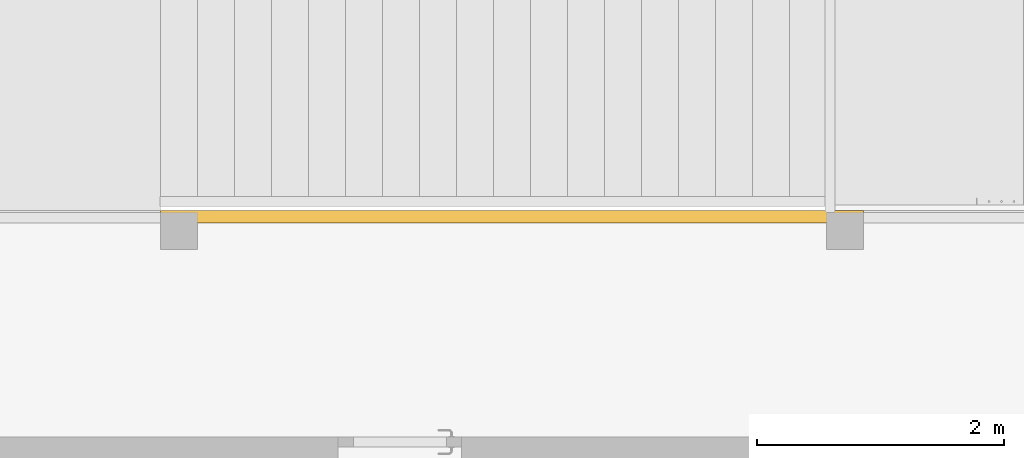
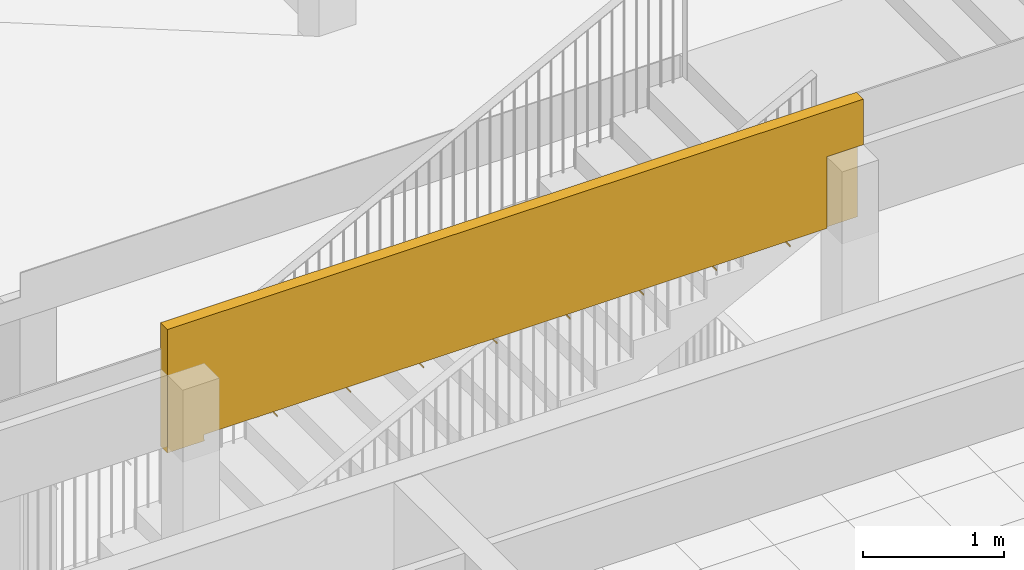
# One storey, part 57 of 79: 1 covering.
"""IFC2X3 building model written with IfcOpenShell, lengths in millimetres."""

import ifcopenshell
import ifcopenshell.guid

model = None  # the IFC model being written
_history = None  # IfcOwnerHistory: only IFC2X3 demands one
_inside = {}  # id of a spatial element -> (the spatial element, [elements in it])
_under = {}  # id of a project, library or spatial element -> (it, [spatial elements below it])
_declared = {}  # id of a project -> (the project, [libraries it declares])
_typed = {}  # id of a type object -> (the type object, [elements of that type])
_made_of = {}  # id of a material, layer set ... -> (it, [elements and type objects made of it])


def new_model(schema):
    """Start an empty IFC model of exactly this schema.

    Asked for "IFC4X3", IfcOpenShell would pick the latest addendum, in which some entities
    have other attributes; the version numbers below select the first issue.
    IFC2X3 requires an IfcOwnerHistory on every rooted entity: one is made here for all.
    """
    global model, _history
    if schema == "IFC4X3":
        model = ifcopenshell.file(schema_version=(4, 3, 0, 0))
    else:
        model = ifcopenshell.file(schema=schema)
    _inside.clear()
    _under.clear()
    _declared.clear()
    _typed.clear()
    _made_of.clear()
    _history = None
    if model.schema == "IFC2X3":
        org = make("IfcOrganization", Name="unknown")
        user = make(
            "IfcPersonAndOrganization",
            ThePerson=make("IfcPerson", FamilyName="unknown"),
            TheOrganization=org,
        )
        app = make(
            "IfcApplication",
            ApplicationDeveloper=org,
            Version="unknown",
            ApplicationFullName="unknown",
            ApplicationIdentifier="unknown",
        )
        _history = make(
            "IfcOwnerHistory",
            OwningUser=user,
            OwningApplication=app,
            ChangeAction="ADDED",
            CreationDate=0,
        )
    return model


def make(cls, **values):
    """One entity of the class cls with the attributes given. An attribute that is None is left unset."""
    return model.create_entity(
        cls, **{name: value for name, value in values.items() if value is not None}
    )


def entity(cls, *values):
    """Any entity or typed value of the class cls, its attributes in the order of the schema. None: left unset."""
    e = model.create_entity(cls)
    for i, value in enumerate(values):
        if value is not None:
            e[i] = value
    return e


def rooted(cls, **values):
    """An entity with a GlobalId (a new one), such as an element, a storey or a relation."""
    return make(cls, GlobalId=ifcopenshell.guid.new(), OwnerHistory=_history, **values)


def si_unit(unit_type, name, prefix=None):
    """IfcSIUnit, for example si_unit("LENGTHUNIT", "METRE", prefix="MILLI")."""
    return make("IfcSIUnit", UnitType=unit_type, Prefix=prefix, Name=name)


def converted_unit(unit_type, name, factor, base, dimensions=None, offset=None):
    """IfcConversionBasedUnit, such as the inch: factor (a typed value) times the base unit."""
    return make(
        "IfcConversionBasedUnit"
        if offset is None
        else "IfcConversionBasedUnitWithOffset",
        ConversionOffset=offset,
        Dimensions=None
        if dimensions is None
        else entity("IfcDimensionalExponents", *dimensions),
        UnitType=unit_type,
        Name=name,
        ConversionFactor=make(
            "IfcMeasureWithUnit", ValueComponent=factor, UnitComponent=base
        ),
    )


def derived_unit(unit_type, elements):
    """IfcDerivedUnit: a product of units, each with its exponent."""
    return make(
        "IfcDerivedUnit",
        Elements=[
            make("IfcDerivedUnitElement", Unit=unit, Exponent=power)
            for unit, power in elements
        ],
        UnitType=unit_type,
    )


def money_unit(currency):
    """IfcMonetaryUnit."""
    return make("IfcMonetaryUnit", Currency=currency)


def assignment(units):
    """IfcUnitAssignment: the units of a project."""
    return None if units is None else make("IfcUnitAssignment", Units=units)


def point(xyz):
    """IfcCartesianPoint."""
    return None if xyz is None else make("IfcCartesianPoint", Coordinates=xyz)


def direction(xyz):
    """IfcDirection."""
    return None if xyz is None else make("IfcDirection", DirectionRatios=xyz)


def frame(location, z_axis=None, x_axis=None):
    """IfcAxis2Placement3D, a coordinate frame: its origin and axes. An axis left out is left unset."""
    return make(
        "IfcAxis2Placement3D",
        Location=point(location),
        Axis=direction(z_axis),
        RefDirection=direction(x_axis),
    )


def origin_with_axes():
    """The frame at (0, 0, 0) with the z axis (0, 0, 1) and the x axis (1, 0, 0) written out."""
    return frame((0.0, 0.0, 0.0), z_axis=(0.0, 0.0, 1.0), x_axis=(1.0, 0.0, 0.0))


def place(relative_to, where):
    """IfcLocalPlacement: puts the frame where relative to a parent placement (None: the world)."""
    return make(
        "IfcLocalPlacement", PlacementRelTo=relative_to, RelativePlacement=where
    )


def context(
    kind, dimensions, precision=None, world=None, true_north=None, identifier=None
):
    """IfcGeometricRepresentationContext, for example the 3D "Model" context."""
    return make(
        "IfcGeometricRepresentationContext",
        ContextIdentifier=identifier,
        ContextType=kind,
        CoordinateSpaceDimension=dimensions,
        Precision=precision,
        WorldCoordinateSystem=world,
        TrueNorth=true_north,
    )


def subcontext(parent, identifier, kind, view, scale=None):
    """IfcGeometricRepresentationSubContext, for example "Body" below "Model"."""
    return make(
        "IfcGeometricRepresentationSubContext",
        ContextIdentifier=identifier,
        ContextType=kind,
        ParentContext=parent,
        TargetScale=scale,
        TargetView=view,
    )


def project(units=None, contexts=None):
    """IfcProject with its units and contexts."""
    return rooted(
        "IfcProject",
        Name="project",
        RepresentationContexts=contexts,
        UnitsInContext=assignment(units),
    )


def spatial(cls, under=None, at=None, **own):
    """A site, building, storey or space (cls), placed at a placement, below another one or the project."""
    s = rooted(cls, ObjectPlacement=at, **own)
    if under is not None:
        _under.setdefault(under.id(), (under, []))[1].append(s)
    return s


def faces_of(points, faces, orient=None, outer=None):
    """IfcFace entities. A face is a list of loops; a loop is a list of indices into points, from 0.

    orient and outer hold one flag for each loop. By default every Orientation is true, the
    first loop of a face is its IfcFaceOuterBound and the others are IfcFaceBound.
    """
    made = []
    for i, loops in enumerate(faces):
        bounds = []
        for j, loop in enumerate(loops):
            is_outer = j == 0 if outer is None else outer[i][j]
            bounds.append(
                make(
                    "IfcFaceOuterBound" if is_outer else "IfcFaceBound",
                    Bound=make("IfcPolyLoop", Polygon=[points[k] for k in loop]),
                    Orientation=True if orient is None else orient[i][j],
                )
            )
        made.append(make("IfcFace", Bounds=bounds))
    return made


def faceted_brep(points, faces, orient=None, outer=None, voids=None):
    """IfcFacetedBrep: a solid bounded by flat faces; with voids (closed shells), ...WithVoids."""
    shared = [point(p) for p in points]
    hull = make("IfcClosedShell", CfsFaces=faces_of(shared, faces, orient, outer))
    if voids is None:
        return make("IfcFacetedBrep", Outer=hull)
    return make(
        "IfcFacetedBrepWithVoids",
        Outer=hull,
        Voids=[
            make(cls, CfsFaces=faces_of(shared, fs, o, b)) for cls, fs, o, b in voids
        ],
    )


def shape(context_of_items, identifier, shape_type, items):
    """IfcShapeRepresentation: the items that make up one representation, for example the "Body"."""
    return make(
        "IfcShapeRepresentation",
        ContextOfItems=context_of_items,
        RepresentationIdentifier=identifier,
        RepresentationType=shape_type,
        Items=items,
    )


def material(Name=None, Category=None):
    """IfcMaterial."""
    return make("IfcMaterial", Name=Name, Category=Category)


def material_list(materials):
    """IfcMaterialList."""
    return make("IfcMaterialList", Materials=materials)


def made_of(thing, what):
    """Note that an element or type object is made of a material, layer set ...; save() writes the relation."""
    if what is not None:
        _made_of.setdefault(what.id(), (what, []))[1].append(thing)
    return thing


def type_object(cls, material=None, **own):
    """A type object (cls), such as IfcWallType, which elements share."""
    return made_of(rooted(cls, **own), material)


def element(
    cls,
    number,
    at=None,
    inside=None,
    cuts=None,
    type_object=None,
    material=None,
    context=None,
    identifier="Body",
    shape_type=None,
    held_by="IfcProductDefinitionShape",
    body=None,
    shapes=None,
    **own,
):
    """One element of the class cls, such as IfcWall. Its Tag is "e" and its number.

    at: its placement. inside: the storey or other place that contains it. cuts: it is an
    opening in that element (IfcRelVoidsElement). A single representation is given by context,
    identifier, shape_type and body (its items); several are given by shapes. held_by: the class
    of the entity that holds the representations. save() writes the other relations.
    """
    e = rooted(cls, Tag="e%d" % number, ObjectPlacement=at, **own)
    if body is not None:
        shapes = [shape(context, identifier, shape_type, body)]
    if shapes is not None:
        e.Representation = make(held_by, Representations=shapes)
    if inside is not None:
        _inside.setdefault(inside.id(), (inside, []))[1].append(e)
    if cuts is not None:
        rooted(
            "IfcRelVoidsElement", RelatingBuildingElement=cuts, RelatedOpeningElement=e
        )
    if type_object is not None:
        _typed.setdefault(type_object.id(), (type_object, []))[1].append(e)
    return made_of(e, material)


def aggregate(whole, parts):
    """IfcRelAggregates: a whole, such as a stair, and the parts it consists of."""
    return rooted("IfcRelAggregates", RelatingObject=whole, RelatedObjects=parts)


def save(model, path):
    """Write the relations noted so far, then the file.

    IfcRelAggregates (storeys below a building ...), IfcRelContainedInSpatialStructure (elements
    in a storey), IfcRelDefinesByType, IfcRelAssociatesMaterial and IfcRelDeclares: one each for
    every whole, place, type object, material and project.
    """
    for whole, parts in _under.values():
        aggregate(whole, parts)
    for where, things in _inside.values():
        rooted(
            "IfcRelContainedInSpatialStructure",
            RelatedElements=things,
            RelatingStructure=where,
        )
    for kind, things in _typed.values():
        rooted("IfcRelDefinesByType", RelatedObjects=things, RelatingType=kind)
    for what, things in _made_of.values():
        rooted("IfcRelAssociatesMaterial", RelatedObjects=things, RelatingMaterial=what)
    for by, libraries in _declared.values():
        rooted("IfcRelDeclares", RelatingContext=by, RelatedDefinitions=libraries)
    model.write(path)


model = new_model("IFC2X3")

# Units and contexts
model_context = context("Model", 3, precision=0.01, world=origin_with_axes(), true_north=direction((0.0, 1.0)))
body_context = subcontext(model_context, "Body", "Model", "MODEL_VIEW")
ifc_project = project(units=[si_unit("LENGTHUNIT", "METRE", prefix="MILLI"), si_unit("AREAUNIT", "SQUARE_METRE"), si_unit("VOLUMEUNIT", "CUBIC_METRE"), converted_unit("PLANEANGLEUNIT", "DEGREE", entity("IfcPlaneAngleMeasure", 0.0174532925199), si_unit("PLANEANGLEUNIT", "RADIAN"), dimensions=[0, 0, 0, 0, 0, 0, 0]), si_unit("SOLIDANGLEUNIT", "STERADIAN"), money_unit("EUR"), converted_unit("TIMEUNIT", "Year", entity("IfcTimeMeasure", 31556926.0), si_unit("TIMEUNIT", "SECOND"), dimensions=[0, 0, 1, 0, 0, 0, 0]), si_unit("MASSUNIT", "GRAM", prefix="KILO"), si_unit("THERMODYNAMICTEMPERATUREUNIT", "DEGREE_CELSIUS"), si_unit("LUMINOUSINTENSITYUNIT", "LUMEN"), si_unit("ENERGYUNIT", "JOULE", prefix="MEGA"), derived_unit("THERMALCONDUCTANCEUNIT", [(si_unit("POWERUNIT", "WATT"), 1), (si_unit("LENGTHUNIT", "METRE"), -1), (si_unit("THERMODYNAMICTEMPERATUREUNIT", "KELVIN"), -1)]), derived_unit("SPECIFICHEATCAPACITYUNIT", [(si_unit("ENERGYUNIT", "JOULE"), 1), (si_unit("MASSUNIT", "GRAM", prefix="KILO"), -1), (si_unit("THERMODYNAMICTEMPERATUREUNIT", "KELVIN"), -1)]), derived_unit("MASSDENSITYUNIT", [(si_unit("MASSUNIT", "GRAM", prefix="KILO"), 1), (si_unit("VOLUMEUNIT", "CUBIC_METRE"), -1)])], contexts=[model_context])

# Site, building, storey
site_placement = place(None, origin_with_axes())
site = spatial("IfcSite", under=ifc_project, at=site_placement, Name="L.Koidula tn 11b", CompositionType="ELEMENT")
building_placement = place(site_placement, origin_with_axes())
building = spatial("IfcBuilding", under=site, at=building_placement, Name="Rakvere Riigigümnaasium", CompositionType="ELEMENT")
storey_placement = place(building_placement, frame((0.0, 0.0, 3720.0), z_axis=(0.0, 0.0, 1.0), x_axis=(1.0, 0.0, 0.0)))
storey = spatial("IfcBuildingStorey", under=building, at=storey_placement, Name="2.korrus +3,72", CompositionType="ELEMENT", Elevation=3720.0)

# Covering
ifc_material_1 = material(Name="Karkass")
ifc_material_2 = material(Name="Kipsplaat")
ifc_material_3 = material(Name="Alumiiniumprofiil")
ifc_material_4 = material(Name="Keraamiline plaat valge")
ifc_material_list = material_list([ifc_material_1, ifc_material_2, ifc_material_3, ifc_material_3, ifc_material_4])
covering_type = type_object("IfcCoveringType", Name="SA-Pinnakate-Ker 99", PredefinedType="CEILING")
covering_placement = place(storey_placement, frame((71299.9980729, 15100.4777458, 2650.0), z_axis=(0.0, 0.0, 1.0), x_axis=(-1.0, 0.0, 0.0)))
element("IfcCovering", 1, at=covering_placement, inside=storey, type_object=covering_type, material=ifc_material_list, Name="Pinnakate-keraamiline", PredefinedType="CEILING", context=body_context, shape_type="Brep", body=[
    faceted_brep([(0.0, 83.5, 675.0), (0.0, 17.5, 675.0), (0.0, 17.5, 1070.0), (0.0, 83.5, 1070.0), (300.0, 17.5, 675.0), (300.0, 83.5, 675.0), (300.0, 17.5, 54.5), (5400.00000479, 17.5, 54.5), (5400.00000479, 17.5, 12.0), (5397.5, 17.5, 12.0), (5397.5, 17.5, 0.0), (5700.00000509, 17.5, 0.0), (5700.00000509, 17.5, 1070.0), (5700.00000509, 83.5, 1070.0), (5700.00000509, 83.5, 0.0), (5397.5, 83.5, 0.0), (5397.5, 83.5, 12.0), (5400.00000367, 83.5, 12.0), (5400.00000367, 83.5, 54.5), (300.0, 83.5, 54.5)], [[[0, 1, 2, 3]], [[4, 1, 0, 5]], [[4, 6, 7, 8, 9, 10, 11, 12, 2, 1]], [[3, 2, 12, 13]], [[5, 0, 3, 13, 14, 15, 16, 17, 18, 19]], [[6, 4, 5, 19]], [[6, 19, 18, 7]], [[18, 17, 8, 7]], [[16, 9, 8, 17]], [[15, 10, 9, 16]], [[11, 10, 15, 14]], [[12, 11, 14, 13]]]),
    faceted_brep([(4802.5, 17.5, 0.0), (4802.5, 17.5, 12.0), (4797.5, 17.5, 12.0), (4797.5, 17.5, 0.0), (4802.5, 83.5, 0.0), (4802.5, 83.5, 12.0), (4797.5, 83.5, 12.0), (4797.5, 83.5, 0.0)], [[[0, 1, 2, 3]], [[1, 0, 4, 5]], [[2, 1, 5, 6]], [[3, 2, 6, 7]], [[4, 0, 3, 7]], [[5, 4, 7, 6]]]),
    faceted_brep([(4202.5, 17.5, 0.0), (4202.5, 17.5, 12.0), (4197.5, 17.5, 12.0), (4197.5, 17.5, 0.0), (4202.5, 83.5, 0.0), (4202.5, 83.5, 12.0), (4197.5, 83.5, 12.0), (4197.5, 83.5, 0.0)], [[[0, 1, 2, 3]], [[1, 0, 4, 5]], [[2, 1, 5, 6]], [[3, 2, 6, 7]], [[4, 0, 3, 7]], [[5, 4, 7, 6]]]),
    faceted_brep([(3602.5, 17.5, 0.0), (3602.5, 17.5, 12.0), (3597.5, 17.5, 12.0), (3597.5, 17.5, 0.0), (3602.5, 83.5, 0.0), (3602.5, 83.5, 12.0), (3597.5, 83.5, 12.0), (3597.5, 83.5, 0.0)], [[[0, 1, 2, 3]], [[1, 0, 4, 5]], [[2, 1, 5, 6]], [[3, 2, 6, 7]], [[4, 0, 3, 7]], [[5, 4, 7, 6]]]),
    faceted_brep([(3002.5, 17.5, 0.0), (3002.5, 17.5, 12.0), (2997.5, 17.5, 12.0), (2997.5, 17.5, 0.0), (3002.5, 83.5, 0.0), (3002.5, 83.5, 12.0), (2997.5, 83.5, 12.0), (2997.5, 83.5, 0.0)], [[[0, 1, 2, 3]], [[1, 0, 4, 5]], [[2, 1, 5, 6]], [[3, 2, 6, 7]], [[4, 0, 3, 7]], [[5, 4, 7, 6]]]),
    faceted_brep([(2402.5, 17.5, 0.0), (2402.5, 17.5, 12.0), (2397.5, 17.5, 12.0), (2397.5, 17.5, 0.0), (2402.5, 83.5, 0.0), (2402.5, 83.5, 12.0), (2397.5, 83.5, 12.0), (2397.5, 83.5, 0.0)], [[[0, 1, 2, 3]], [[1, 0, 4, 5]], [[2, 1, 5, 6]], [[3, 2, 6, 7]], [[4, 0, 3, 7]], [[5, 4, 7, 6]]]),
    faceted_brep([(1802.5, 17.5, 0.0), (1802.5, 17.5, 12.0), (1797.5, 17.5, 12.0), (1797.5, 17.5, 0.0), (1802.5, 83.5, 0.0), (1802.5, 83.5, 12.0), (1797.5, 83.5, 12.0), (1797.5, 83.5, 0.0)], [[[0, 1, 2, 3]], [[1, 0, 4, 5]], [[2, 1, 5, 6]], [[3, 2, 6, 7]], [[4, 0, 3, 7]], [[5, 4, 7, 6]]]),
    faceted_brep([(1202.5, 17.5, 0.0), (1202.5, 17.5, 12.0), (1197.5, 17.5, 12.0), (1197.5, 17.5, 0.0), (1202.5, 83.5, 0.0), (1202.5, 83.5, 12.0), (1197.5, 83.5, 12.0), (1197.5, 83.5, 0.0)], [[[0, 1, 2, 3]], [[1, 0, 4, 5]], [[2, 1, 5, 6]], [[3, 2, 6, 7]], [[4, 0, 3, 7]], [[5, 4, 7, 6]]]),
    faceted_brep([(602.5, 17.5, 0.0), (602.5, 17.5, 12.0), (597.5, 17.5, 12.0), (597.5, 17.5, 0.0), (602.5, 83.5, 0.0), (602.5, 83.5, 12.0), (597.5, 83.5, 12.0), (597.5, 83.5, 0.0)], [[[0, 1, 2, 3]], [[1, 0, 4, 5]], [[2, 1, 5, 6]], [[3, 2, 6, 7]], [[4, 0, 3, 7]], [[5, 4, 7, 6]]]),
    faceted_brep([(0.0, 17.5, 675.0), (0.0, 5.0, 675.0), (0.0, 5.0, 1070.0), (0.0, 17.5, 1070.0), (300.0, 5.0, 675.0), (300.0, 17.5, 675.0), (300.0, 5.0, 54.5), (5400.000005, 5.0, 54.5), (5400.000005, 5.0, 12.0), (5397.5, 5.0, 12.0), (5397.5, 5.0, 0.0), (5700.00000509, 5.0, 0.0), (5700.00000509, 5.0, 1070.0), (5700.00000509, 17.5, 1070.0), (5700.00000509, 17.5, 0.0), (5397.5, 17.5, 0.0), (5397.5, 17.5, 12.0), (5400.00000479, 17.5, 12.0), (5400.00000479, 17.5, 54.5), (300.0, 17.5, 54.5)], [[[0, 1, 2, 3]], [[4, 1, 0, 5]], [[4, 6, 7, 8, 9, 10, 11, 12, 2, 1]], [[3, 2, 12, 13]], [[5, 0, 3, 13, 14, 15, 16, 17, 18, 19]], [[6, 4, 5, 19]], [[6, 19, 18, 7]], [[18, 17, 8, 7]], [[16, 9, 8, 17]], [[15, 10, 9, 16]], [[11, 10, 15, 14]], [[12, 11, 14, 13]]]),
    faceted_brep([(4802.5, 5.0, 0.0), (4802.5, 5.0, 12.0), (4797.5, 5.0, 12.0), (4797.5, 5.0, 0.0), (4802.5, 17.5, 0.0), (4802.5, 17.5, 12.0), (4797.5, 17.5, 12.0), (4797.5, 17.5, 0.0)], [[[0, 1, 2, 3]], [[1, 0, 4, 5]], [[2, 1, 5, 6]], [[3, 2, 6, 7]], [[4, 0, 3, 7]], [[5, 4, 7, 6]]]),
    faceted_brep([(4202.5, 5.0, 0.0), (4202.5, 5.0, 12.0), (4197.5, 5.0, 12.0), (4197.5, 5.0, 0.0), (4202.5, 17.5, 0.0), (4202.5, 17.5, 12.0), (4197.5, 17.5, 12.0), (4197.5, 17.5, 0.0)], [[[0, 1, 2, 3]], [[1, 0, 4, 5]], [[2, 1, 5, 6]], [[3, 2, 6, 7]], [[4, 0, 3, 7]], [[5, 4, 7, 6]]]),
    faceted_brep([(3602.5, 5.0, 0.0), (3602.5, 5.0, 12.0), (3597.5, 5.0, 12.0), (3597.5, 5.0, 0.0), (3602.5, 17.5, 0.0), (3602.5, 17.5, 12.0), (3597.5, 17.5, 12.0), (3597.5, 17.5, 0.0)], [[[0, 1, 2, 3]], [[1, 0, 4, 5]], [[2, 1, 5, 6]], [[3, 2, 6, 7]], [[4, 0, 3, 7]], [[5, 4, 7, 6]]]),
    faceted_brep([(3002.5, 5.0, 0.0), (3002.5, 5.0, 12.0), (2997.5, 5.0, 12.0), (2997.5, 5.0, 0.0), (3002.5, 17.5, 0.0), (3002.5, 17.5, 12.0), (2997.5, 17.5, 12.0), (2997.5, 17.5, 0.0)], [[[0, 1, 2, 3]], [[1, 0, 4, 5]], [[2, 1, 5, 6]], [[3, 2, 6, 7]], [[4, 0, 3, 7]], [[5, 4, 7, 6]]]),
    faceted_brep([(2402.5, 5.0, 0.0), (2402.5, 5.0, 12.0), (2397.5, 5.0, 12.0), (2397.5, 5.0, 0.0), (2402.5, 17.5, 0.0), (2402.5, 17.5, 12.0), (2397.5, 17.5, 12.0), (2397.5, 17.5, 0.0)], [[[0, 1, 2, 3]], [[1, 0, 4, 5]], [[2, 1, 5, 6]], [[3, 2, 6, 7]], [[4, 0, 3, 7]], [[5, 4, 7, 6]]]),
    faceted_brep([(1802.5, 5.0, 0.0), (1802.5, 5.0, 12.0), (1797.5, 5.0, 12.0), (1797.5, 5.0, 0.0), (1802.5, 17.5, 0.0), (1802.5, 17.5, 12.0), (1797.5, 17.5, 12.0), (1797.5, 17.5, 0.0)], [[[0, 1, 2, 3]], [[1, 0, 4, 5]], [[2, 1, 5, 6]], [[3, 2, 6, 7]], [[4, 0, 3, 7]], [[5, 4, 7, 6]]]),
    faceted_brep([(1202.5, 5.0, 0.0), (1202.5, 5.0, 12.0), (1197.5, 5.0, 12.0), (1197.5, 5.0, 0.0), (1202.5, 17.5, 0.0), (1202.5, 17.5, 12.0), (1197.5, 17.5, 12.0), (1197.5, 17.5, 0.0)], [[[0, 1, 2, 3]], [[1, 0, 4, 5]], [[2, 1, 5, 6]], [[3, 2, 6, 7]], [[4, 0, 3, 7]], [[5, 4, 7, 6]]]),
    faceted_brep([(602.5, 5.0, 0.0), (602.5, 5.0, 12.0), (597.5, 5.0, 12.0), (597.5, 5.0, 0.0), (602.5, 17.5, 0.0), (602.5, 17.5, 12.0), (597.5, 17.5, 12.0), (597.5, 17.5, 0.0)], [[[0, 1, 2, 3]], [[1, 0, 4, 5]], [[2, 1, 5, 6]], [[3, 2, 6, 7]], [[4, 0, 3, 7]], [[5, 4, 7, 6]]]),
    faceted_brep([(0.0, 5.0, 675.0), (0.0, -0.000784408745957, 675.0), (0.0, 0.0, 1070.0), (0.0, 5.0, 1070.0), (300.0, -0.000784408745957, 675.0), (300.0, 5.0, 675.0), (300.0, -0.000784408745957, 0.0), (5700.00000509, 0.0, 0.0), (5700.00000509, 0.0, 1070.0), (5700.00000509, 5.0, 1070.0), (5700.00000509, 5.0, 0.0), (5397.5, 5.0, 0.0), (5397.5, 5.0, 12.0), (5400.000005, 5.0, 12.0), (5400.000005, 5.0, 54.5), (300.0, 5.0, 54.5), (300.0, 0.0213728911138, 54.5), (300.0, 0.0213728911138, 0.0), (597.5, 0.0214197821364, 0.0), (597.5, 5.0, 0.0), (602.5, 5.0, 0.0), (602.5, 0.0214205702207, 0.0), (1197.5, 0.0215143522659, 0.0), (1197.5, 5.0, 0.0), (1202.5, 5.0, 0.0), (1202.5, 0.0215151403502, 0.0), (1797.5, 0.0216089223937, 0.0), (1797.5, 5.0, 0.0), (1802.5, 5.0, 0.0), (1802.5, 0.0216097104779, 0.0), (2397.5, 0.0217034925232, 0.0), (2397.5, 5.0, 0.0), (2402.5, 5.0, 0.0), (2402.5, 0.0217042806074, 0.0), (2997.5, 0.0217980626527, 0.0), (2997.5, 5.0, 0.0), (3002.5, 5.0, 0.0), (3002.5, 0.0217988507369, 0.0), (3597.5, 0.0218926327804, 0.0), (3597.5, 5.0, 0.0), (3602.5, 5.0, 0.0), (3602.5, 0.0218934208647, 0.0), (4197.5, 0.0219872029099, 0.0), (4197.5, 5.0, 0.0), (4202.5, 5.0, 0.0), (4202.5, 0.0219879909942, 0.0), (4797.5, 0.0220817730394, 0.0), (4797.5, 5.0, 0.0), (4802.5, 5.0, 0.0), (4802.5, 0.0220825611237, 0.0), (5397.5, 0.0221763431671, 0.0), (5397.5, 0.0227403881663, 12.0), (5400.00000509, 0.0221767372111, 12.0), (5400.00000509, 0.0221767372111, 54.5), (4802.5, 0.022580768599, 12.0), (4797.5, 0.0225794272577, 12.0), (4202.5, 0.0224198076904, 12.0), (4197.5, 0.0224184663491, 12.0), (3602.5, 0.0222588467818, 12.0), (3597.5, 0.0222575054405, 12.0), (3002.5, 0.0220978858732, 12.0), (2997.5, 0.0220965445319, 12.0), (2402.5, 0.0219369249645, 12.0), (2397.5, 0.0219355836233, 12.0), (1802.5, 0.0217759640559, 12.0), (1797.5, 0.0217746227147, 12.0), (1202.5, 0.0216150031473, 12.0), (1197.5, 0.0216136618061, 12.0), (602.5, 0.0214540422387, 12.0), (597.5, 0.0214527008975, 12.0), (597.5, 5.0, 12.0), (602.5, 5.0, 12.0), (1197.5, 5.0, 12.0), (1202.5, 5.0, 12.0), (1797.5, 5.0, 12.0), (1802.5, 5.0, 12.0), (2397.5, 5.0, 12.0), (2402.5, 5.0, 12.0), (2997.5, 5.0, 12.0), (3002.5, 5.0, 12.0), (3597.5, 5.0, 12.0), (3602.5, 5.0, 12.0), (4197.5, 5.0, 12.0), (4202.5, 5.0, 12.0), (4797.5, 5.0, 12.0), (4802.5, 5.0, 12.0)], [[[0, 1, 2, 3]], [[4, 1, 0, 5]], [[4, 6, 7, 8, 2, 1]], [[3, 2, 8, 9]], [[5, 0, 3, 9, 10, 11, 12, 13, 14, 15]], [[6, 4, 5, 15, 16, 17]], [[6, 17, 18, 19, 20, 21, 22, 23, 24, 25, 26, 27, 28, 29, 30, 31, 32, 33, 34, 35, 36, 37, 38, 39, 40, 41, 42, 43, 44, 45, 46, 47, 48, 49, 50, 11, 10, 7]], [[8, 7, 10, 9]], [[12, 11, 50, 51]], [[52, 13, 12, 51]], [[14, 13, 52, 53]], [[16, 15, 14, 53]], [[17, 16, 53, 52, 51, 50, 49, 54, 55, 46, 45, 56, 57, 42, 41, 58, 59, 38, 37, 60, 61, 34, 33, 62, 63, 30, 29, 64, 65, 26, 25, 66, 67, 22, 21, 68, 69, 18]], [[70, 19, 18, 69]], [[70, 71, 20, 19]], [[68, 21, 20, 71]], [[72, 23, 22, 67]], [[72, 73, 24, 23]], [[66, 25, 24, 73]], [[74, 27, 26, 65]], [[74, 75, 28, 27]], [[64, 29, 28, 75]], [[76, 31, 30, 63]], [[76, 77, 32, 31]], [[62, 33, 32, 77]], [[78, 35, 34, 61]], [[78, 79, 36, 35]], [[60, 37, 36, 79]], [[80, 39, 38, 59]], [[80, 81, 40, 39]], [[58, 41, 40, 81]], [[82, 43, 42, 57]], [[82, 83, 44, 43]], [[56, 45, 44, 83]], [[84, 47, 46, 55]], [[84, 85, 48, 47]], [[54, 49, 48, 85]], [[54, 85, 84, 55]], [[56, 83, 82, 57]], [[58, 81, 80, 59]], [[60, 79, 78, 61]], [[62, 77, 76, 63]], [[64, 75, 74, 65]], [[66, 73, 72, 67]], [[68, 71, 70, 69]]]),
    faceted_brep([(0.0, -10.0, 0.0), (0.0, 0.0, 0.0), (5700.00000509, 0.0, 0.0), (5700.00000509, -10.0, 0.0), (0.0, -10.0, 1070.0), (0.0, 0.0, 1070.0), (5700.00000509, 0.0, 1070.0), (5700.00000509, -10.0, 1070.0)], [[[0, 1, 2, 3]], [[4, 5, 1, 0]], [[1, 5, 6, 2]], [[7, 3, 2, 6]], [[4, 0, 3, 7]], [[5, 4, 7, 6]]]),
    faceted_brep([(0.0, -10.0, 0.0), (5700.00000509, -10.0, 0.0), (5700.00000509, -15.0, 0.0), (0.0, -15.0, 0.0), (0.0, -10.0, 1070.0), (5700.00000509, -10.0, 1070.0), (5700.00000509, -15.0, 1070.0), (0.0, -15.0, 1070.0)], [[[0, 1, 2, 3]], [[4, 5, 1, 0]], [[2, 1, 5, 6]], [[3, 2, 6, 7]], [[4, 0, 3, 7]], [[7, 6, 5, 4]]]),
])

save(model, "model.ifc")
